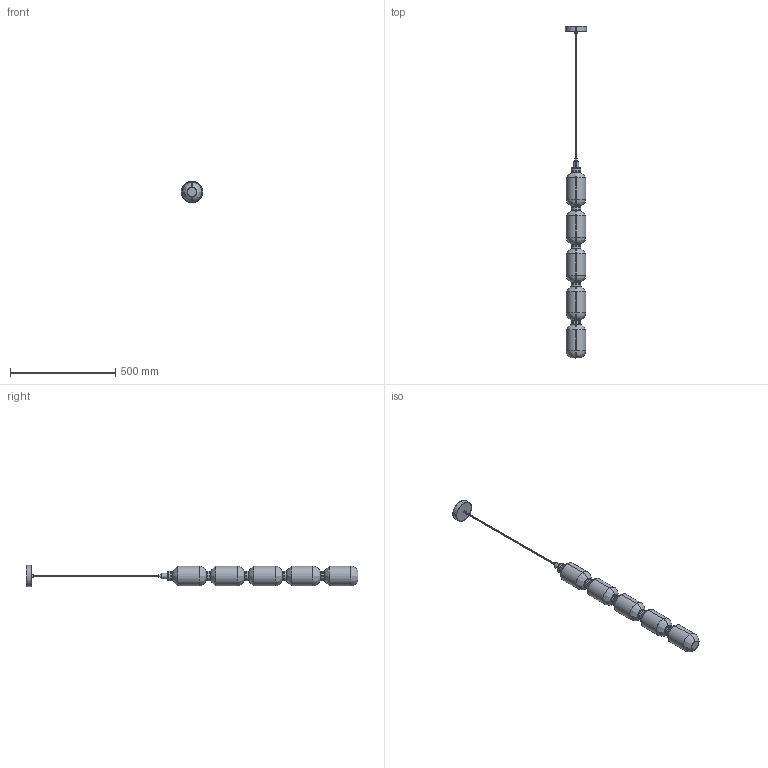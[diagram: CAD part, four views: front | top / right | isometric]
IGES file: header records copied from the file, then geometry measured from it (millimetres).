
Start section: SolidWorks IGES file using analytic representation for surfaces
Global section: file name: F:\燠隴矨\3D\2024-11堎\Ballet Pendant Lamp-model G.IGS; native system: SolidWorks 2022; preprocessor: SolidWorks 2022; author: MyPC; date: 241119.102212; units: millimetre
Bounding box: 100 x 1575.31 x 100 mm (x, y, z)
Surface area: 333918.2 mm2 (no closed solid volume)
Topology: 0 solids, 0 shells, 587 faces, 12628 edges, 12628 vertices
Faces by surface type: bspline 357, revolution 230
